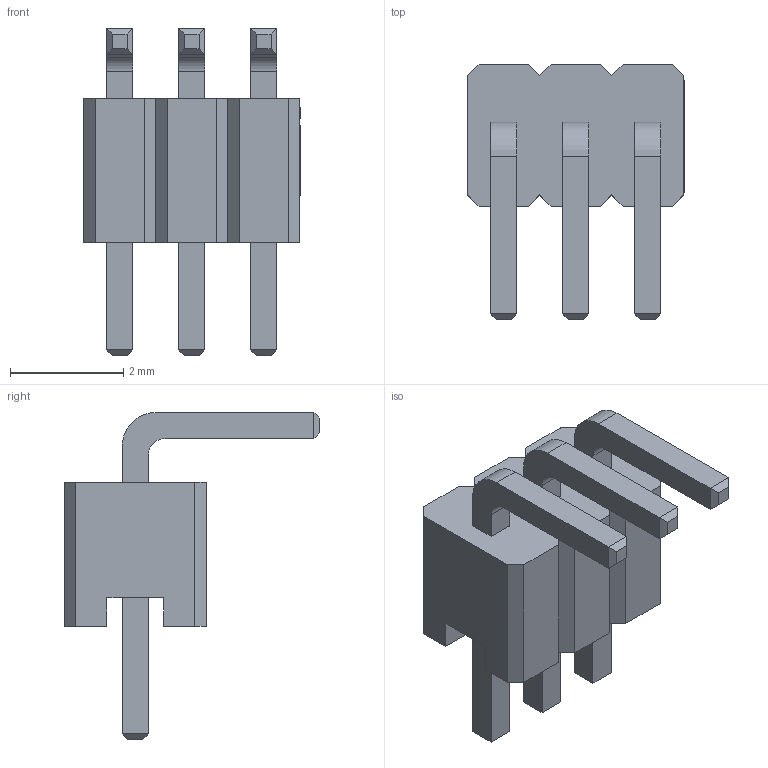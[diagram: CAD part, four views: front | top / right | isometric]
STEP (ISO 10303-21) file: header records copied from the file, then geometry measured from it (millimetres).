
FILE_DESCRIPTION((''),'2;1');
FILE_NAME('ASM0001_ASM','2024-06-19T17:16:52',('Admin'),(''),'CREO PARAMETRIC BY PTC INC, 2022073','CREO PARAMETRIC BY PTC INC, 2022073','');
FILE_SCHEMA(('CONFIG_CONTROL_DESIGN'));
Length unit declared in the file: millimetre
Products named in the file (4): GPEB101-221_1; GPEB101-3_1; GPEB101-0302AXXXC1ZA_A_2_B_2__1_ASM; ASM0001_ASM
Assembly tree (5 placements, depth 3):
  ASM0001_ASM
    GPEB101-0302AXXXC1ZA_A_2_B_2__1_ASM
      GPEB101-221_1  x3
      GPEB101-3_1
Bounding box: 3.82 x 4.5 x 5.77 mm (x, y, z)
Volume: 25.9 mm3; surface area: 112.3 mm2
Topology: 4 solids, 4 shells, 281 faces, 726 edges, 476 vertices
Faces by surface type: plane 236, extrusion 31, cylinder 14
Entity records: 8241 total; most frequent: CARTESIAN_POINT 2076, ORIENTED_EDGE 1292, DIRECTION 1123, EDGE_CURVE 646, VECTOR 595, LINE 564, VERTEX_POINT 428, EDGE_LOOP 274
